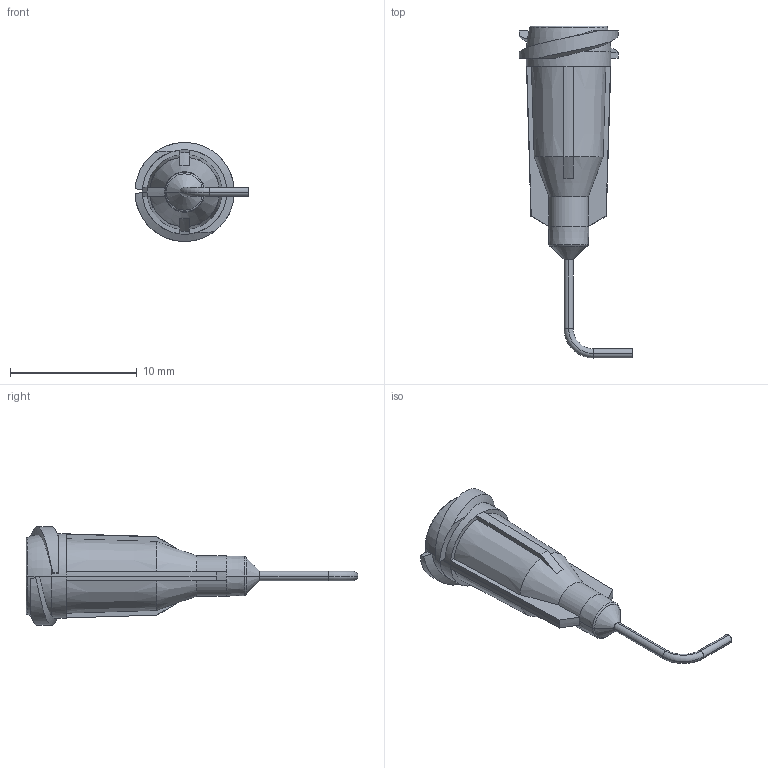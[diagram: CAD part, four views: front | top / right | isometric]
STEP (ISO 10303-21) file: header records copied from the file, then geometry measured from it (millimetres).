
FILE_DESCRIPTION (( 'STEP AP214' ), '1' );
FILE_NAME ('NORDSONEFD-7018270 TIP 22GA GP 016 90D BL.STEP', '2019-05-09T14:11:12', ( '' ), ( '' ), 'SwSTEP 2.0', 'SolidWorks 2019', '' );
FILE_SCHEMA (( 'AUTOMOTIVE_DESIGN' ));
Length unit declared in the file: inch
Products named in the file (1): NORDSONEFD-7018270 TIP 22GA GP 016 90D BL
Bounding box: 8.98 x 26.2 x 7.81 mm (x, y, z)
Volume: 267.5 mm3; surface area: 583.4 mm2
Topology: 1 solids, 1 shells, 128 faces, 294 edges, 172 vertices
Faces by surface type: torus 38, cylinder 30, plane 26, cone 22, bspline 12
Entity records: 4484 total; most frequent: CARTESIAN_POINT 1129, DIRECTION 638, ORIENTED_EDGE 588, EDGE_CURVE 294, AXIS2_PLACEMENT_3D 283, VERTEX_POINT 172, CIRCLE 166, EDGE_LOOP 134
